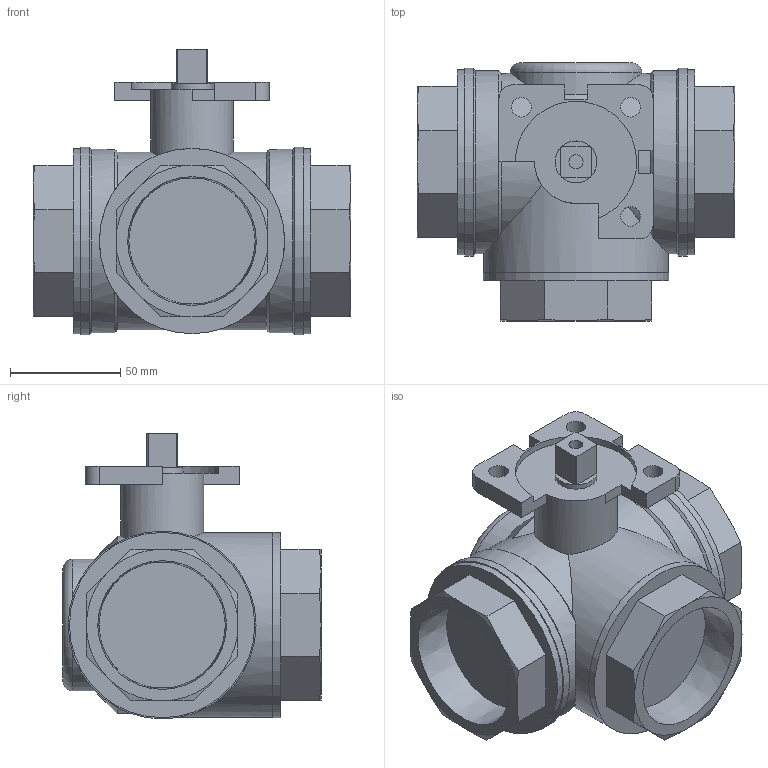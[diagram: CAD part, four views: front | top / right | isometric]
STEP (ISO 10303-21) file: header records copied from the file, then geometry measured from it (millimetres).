
FILE_DESCRIPTION((' '),'2;1');
FILE_NAME('N:\Technical Support\Private\Jomar Valve CAD\Actuation\A751T.L\A751TL-2FusionCopy.stp.step','2017-05-26T11:52:18',(' '),(' '),' ','ACIS',' ');
FILE_SCHEMA(('CONFIG_CONTROL_DESIGN'));
Length unit declared in the file: inch
Products named in the file (6): N:\Technical Support\Private\Jomar Valve CAD\Actuation\A751T.L\A751TL-2FusionCopy.stp.step; Body1; Body2; Body3; Body4; Body5
Assembly tree (5 placements, depth 2):
  N:\Technical Support\Private\Jomar Valve CAD\Actuation\A751T.L\A751TL-2FusionCopy.stp.step
    Body1
    Body2
    Body3
    Body4
    Body5
Bounding box: 144.02 x 116.97 x 129.54 mm (x, y, z)
Volume: 823395.5 mm3; surface area: 114638.4 mm2
Topology: 5 solids, 5 shells, 127 faces, 310 edges, 200 vertices
Faces by surface type: plane 54, bspline 32, cone 24, cylinder 16, torus 1
Full cylindrical faces by diameter (mm): 6.35 x1, 8.89 x1, 18.923 x1, 37.592 x1, 41.656 x1, 59.69 x1, 83.058 x1, 83.82 x1, 83.947 x2, 85.09 x1
Entity records: 4784 total; most frequent: CARTESIAN_POINT 1358, ORIENTED_EDGE 552, DIRECTION 496, EDGE_CURVE 276, AXIS2_PLACEMENT_3D 189, VERTEX_POINT 188, EDGE_LOOP 164, FACE_OUTER_BOUND 127
